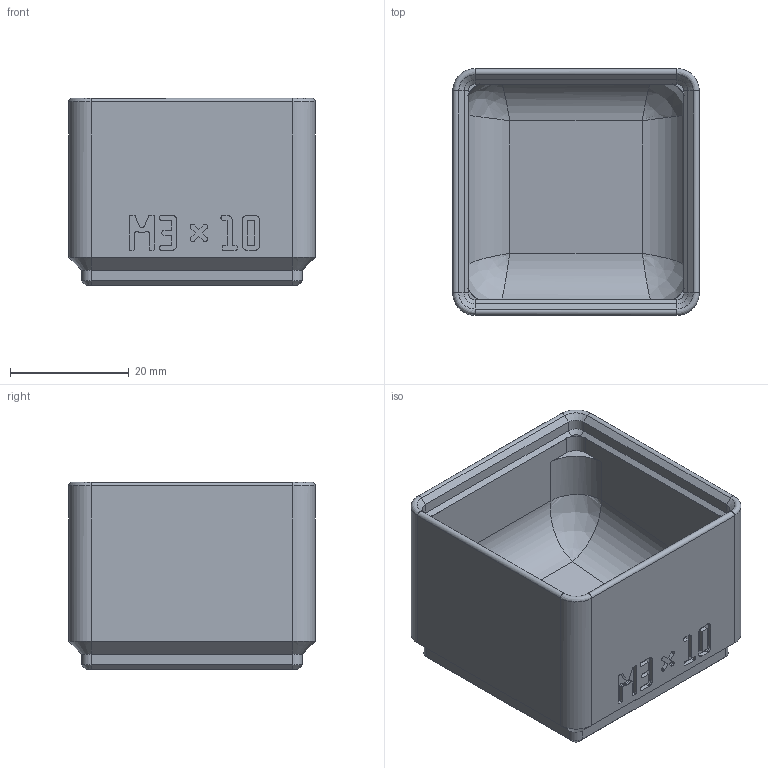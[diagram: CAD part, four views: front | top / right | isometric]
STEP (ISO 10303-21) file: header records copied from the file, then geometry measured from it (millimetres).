
FILE_DESCRIPTION(('Open CASCADE Model'),'2;1');
FILE_NAME('Open CASCADE Shape Model','2026-11-03T17:57:42',('Author'),( 'Open CASCADE'),'Open CASCADE STEP processor 8.0','build123d', 'Unknown');
FILE_SCHEMA(('AUTOMOTIVE_DESIGN { 1 0 10303 214 1 1 1 1 }'));
Length unit declared in the file: millimetre
Products named in the file (1): COMPOUND
Bounding box: 41.5 x 41.5 x 31.55 mm (x, y, z)
Volume: 18949 mm3; surface area: 11343.6 mm2
Topology: 1 solids, 1 shells, 596 faces, 1676 edges, 1084 vertices
Faces by surface type: plane 532, cylinder 36, cone 20, bspline 8
Entity records: 41992 total; most frequent: CARTESIAN_POINT 10543, DIRECTION 5124, LINE 3816, VECTOR 3816, ORIENTED_EDGE 3344, PCURVE 3344, DEFINITIONAL_REPRESENTATION 3344, EDGE_CURVE 1672
